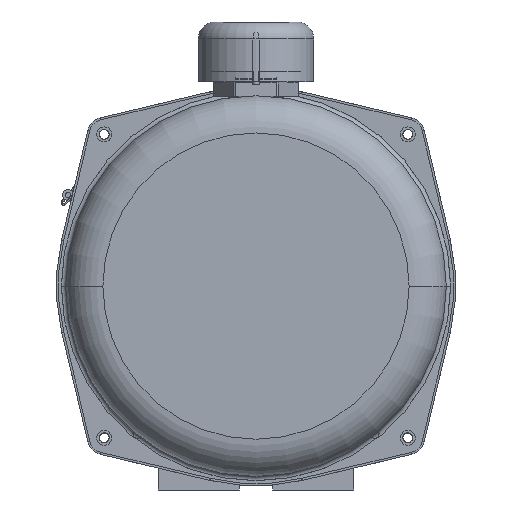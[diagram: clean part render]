
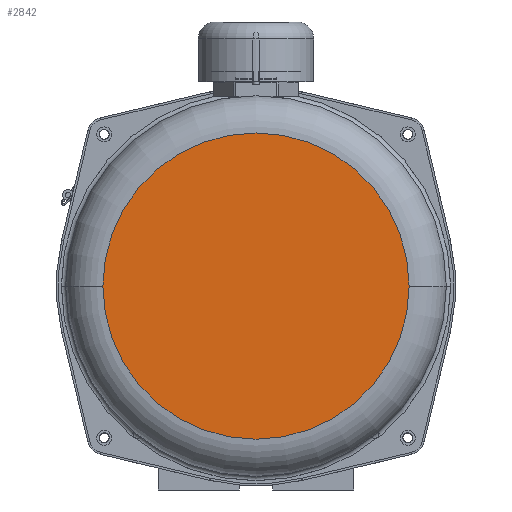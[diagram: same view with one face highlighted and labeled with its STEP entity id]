
A CAD part, front view. The second image highlights one B-rep face of the part: STEP entity #2842.
In plain terms, the highlighted planar face has unit normal (0, -1, 0).
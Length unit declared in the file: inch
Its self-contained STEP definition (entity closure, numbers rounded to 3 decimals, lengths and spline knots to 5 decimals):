
#541=CARTESIAN_POINT('',(0.,-16.846,0.97999));
#542=DIRECTION('',(0.,-1.,0.));
#543=DIRECTION('',(-1.,0.,0.));
#544=AXIS2_PLACEMENT_3D('',#541,#542,#543);
#546=CARTESIAN_POINT('',(0.,-16.846,0.97999));
#547=DIRECTION('',(0.,-1.,0.));
#548=DIRECTION('',(1.,0.,0.));
#549=AXIS2_PLACEMENT_3D('',#546,#547,#548);
#1874=CARTESIAN_POINT('',(2.2525,-16.846,0.97999));
#1875=VERTEX_POINT('',#1874);
#1876=CARTESIAN_POINT('',(-2.2525,-16.846,0.97999));
#1877=VERTEX_POINT('',#1876);
#2833=CARTESIAN_POINT('',(0.,-16.846,0.97999));
#2834=DIRECTION('',(0.,1.,0.));
#2835=DIRECTION('',(-1.,0.,0.));
#2836=AXIS2_PLACEMENT_3D('',#2833,#2834,#2835);
#2837=PLANE('',#2836);
#2838=ORIENTED_EDGE('',*,*,#2828,.F.);
#2839=ORIENTED_EDGE('',*,*,#2812,.F.);
#2840=EDGE_LOOP('',(#2838,#2839));
#2841=FACE_OUTER_BOUND('',#2840,.F.);
#2842=ADVANCED_FACE('',(#2841),#2837,.F.);
#545=CIRCLE('',#544,2.2525);
#550=CIRCLE('',#549,2.2525);
#2812=EDGE_CURVE('',#1875,#1877,#550,.T.);
#2828=EDGE_CURVE('',#1877,#1875,#545,.T.);
